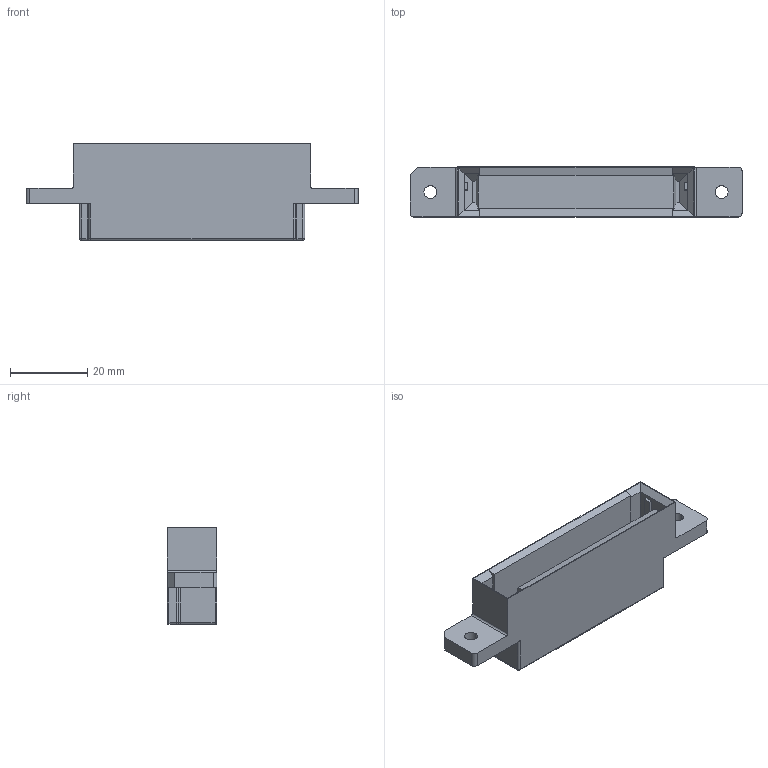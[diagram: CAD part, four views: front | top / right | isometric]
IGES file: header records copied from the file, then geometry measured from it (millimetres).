
Start section: Elysium IGES Interface
Bounding box: 85.7 x 12.9 x 25 mm (x, y, z)
Volume: 14074.2 mm3; surface area: 7663.7 mm2
Topology: 1 solids, 1 shells, 619 faces, 1696 edges, 1114 vertices
Faces by surface type: bspline 619
